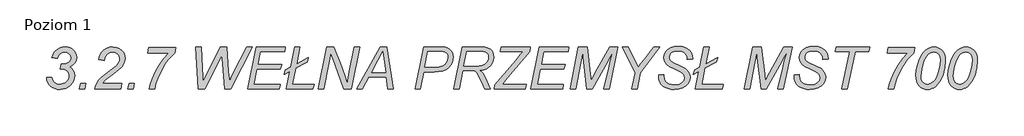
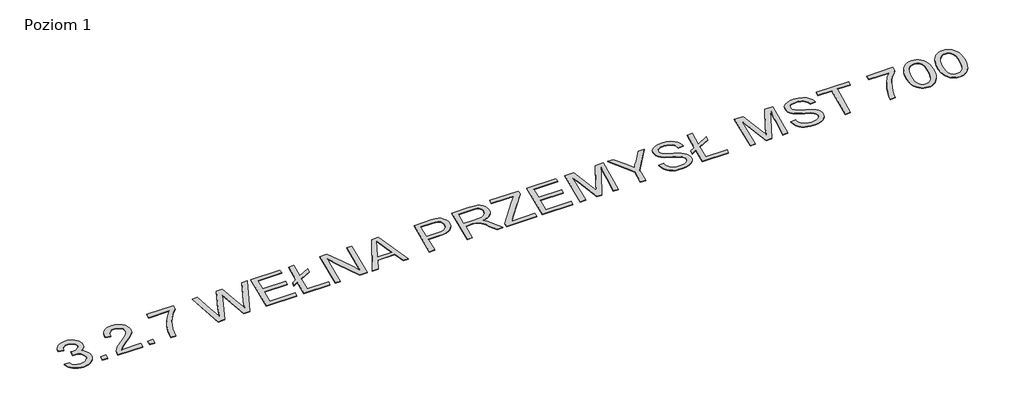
# One storey, part 8 of 8: 1 proxy.
"""IFC4 building model written with IfcOpenShell, lengths in millimetres."""

import ifcopenshell
import ifcopenshell.guid

model = None  # the IFC model being written
_history = None  # IfcOwnerHistory: only IFC2X3 demands one
_inside = {}  # id of a spatial element -> (the spatial element, [elements in it])
_under = {}  # id of a project, library or spatial element -> (it, [spatial elements below it])
_declared = {}  # id of a project -> (the project, [libraries it declares])
_typed = {}  # id of a type object -> (the type object, [elements of that type])
_made_of = {}  # id of a material, layer set ... -> (it, [elements and type objects made of it])


def new_model(schema):
    """Start an empty IFC model of exactly this schema.

    Asked for "IFC4X3", IfcOpenShell would pick the latest addendum, in which some entities
    have other attributes; the version numbers below select the first issue.
    IFC2X3 requires an IfcOwnerHistory on every rooted entity: one is made here for all.
    """
    global model, _history
    if schema == "IFC4X3":
        model = ifcopenshell.file(schema_version=(4, 3, 0, 0))
    else:
        model = ifcopenshell.file(schema=schema)
    _inside.clear()
    _under.clear()
    _declared.clear()
    _typed.clear()
    _made_of.clear()
    _history = None
    if model.schema == "IFC2X3":
        org = make("IfcOrganization", Name="unknown")
        user = make(
            "IfcPersonAndOrganization",
            ThePerson=make("IfcPerson", FamilyName="unknown"),
            TheOrganization=org,
        )
        app = make(
            "IfcApplication",
            ApplicationDeveloper=org,
            Version="unknown",
            ApplicationFullName="unknown",
            ApplicationIdentifier="unknown",
        )
        _history = make(
            "IfcOwnerHistory",
            OwningUser=user,
            OwningApplication=app,
            ChangeAction="ADDED",
            CreationDate=0,
        )
    return model


def make(cls, **values):
    """One entity of the class cls with the attributes given. An attribute that is None is left unset."""
    return model.create_entity(
        cls, **{name: value for name, value in values.items() if value is not None}
    )


def rooted(cls, **values):
    """An entity with a GlobalId (a new one), such as an element, a storey or a relation."""
    return make(cls, GlobalId=ifcopenshell.guid.new(), OwnerHistory=_history, **values)


def si_unit(unit_type, name, prefix=None):
    """IfcSIUnit, for example si_unit("LENGTHUNIT", "METRE", prefix="MILLI")."""
    return make("IfcSIUnit", UnitType=unit_type, Prefix=prefix, Name=name)


def assignment(units):
    """IfcUnitAssignment: the units of a project."""
    return None if units is None else make("IfcUnitAssignment", Units=units)


def point(xyz):
    """IfcCartesianPoint."""
    return None if xyz is None else make("IfcCartesianPoint", Coordinates=xyz)


def direction(xyz):
    """IfcDirection."""
    return None if xyz is None else make("IfcDirection", DirectionRatios=xyz)


def frame(location, z_axis=None, x_axis=None):
    """IfcAxis2Placement3D, a coordinate frame: its origin and axes. An axis left out is left unset."""
    return make(
        "IfcAxis2Placement3D",
        Location=point(location),
        Axis=direction(z_axis),
        RefDirection=direction(x_axis),
    )


def origin():
    """The frame at (0, 0, 0) with its axes left unset."""
    return frame((0.0, 0.0, 0.0))


def origin_with_axes():
    """The frame at (0, 0, 0) with the z axis (0, 0, 1) and the x axis (1, 0, 0) written out."""
    return frame((0.0, 0.0, 0.0), z_axis=(0.0, 0.0, 1.0), x_axis=(1.0, 0.0, 0.0))


def place(relative_to, where):
    """IfcLocalPlacement: puts the frame where relative to a parent placement (None: the world)."""
    return make(
        "IfcLocalPlacement", PlacementRelTo=relative_to, RelativePlacement=where
    )


def context(
    kind, dimensions, precision=None, world=None, true_north=None, identifier=None
):
    """IfcGeometricRepresentationContext, for example the 3D "Model" context."""
    return make(
        "IfcGeometricRepresentationContext",
        ContextIdentifier=identifier,
        ContextType=kind,
        CoordinateSpaceDimension=dimensions,
        Precision=precision,
        WorldCoordinateSystem=world,
        TrueNorth=true_north,
    )


def project(units=None, contexts=None):
    """IfcProject with its units and contexts."""
    return rooted(
        "IfcProject",
        Name="project",
        RepresentationContexts=contexts,
        UnitsInContext=assignment(units),
    )


def spatial(cls, under=None, at=None, **own):
    """A site, building, storey or space (cls), placed at a placement, below another one or the project."""
    s = rooted(cls, ObjectPlacement=at, **own)
    if under is not None:
        _under.setdefault(under.id(), (under, []))[1].append(s)
    return s


def polyline(points):
    """IfcPolyline through the points."""
    return make("IfcPolyline", Points=[point(p) for p in points])


def outline(outer, holes=None, kind="AREA"):
    """IfcArbitraryClosedProfileDef: a profile drawn as a closed curve; with holes, ...WithVoids."""
    if holes is None:
        return make("IfcArbitraryClosedProfileDef", ProfileType=kind, OuterCurve=outer)
    return make(
        "IfcArbitraryProfileDefWithVoids",
        ProfileType=kind,
        OuterCurve=outer,
        InnerCurves=holes,
    )


def extrude(swept, where, along, depth):
    """IfcExtrudedAreaSolid: the profile swept, set in the frame where, extruded along a direction by depth."""
    return make(
        "IfcExtrudedAreaSolid",
        SweptArea=swept,
        Position=where,
        ExtrudedDirection=direction(along),
        Depth=depth,
    )


def shape(context_of_items, identifier, shape_type, items):
    """IfcShapeRepresentation: the items that make up one representation, for example the "Body"."""
    return make(
        "IfcShapeRepresentation",
        ContextOfItems=context_of_items,
        RepresentationIdentifier=identifier,
        RepresentationType=shape_type,
        Items=items,
    )


def made_of(thing, what):
    """Note that an element or type object is made of a material, layer set ...; save() writes the relation."""
    if what is not None:
        _made_of.setdefault(what.id(), (what, []))[1].append(thing)
    return thing


def element(
    cls,
    number,
    at=None,
    inside=None,
    cuts=None,
    type_object=None,
    material=None,
    context=None,
    identifier="Body",
    shape_type=None,
    held_by="IfcProductDefinitionShape",
    body=None,
    shapes=None,
    **own,
):
    """One element of the class cls, such as IfcWall. Its Tag is "e" and its number.

    at: its placement. inside: the storey or other place that contains it. cuts: it is an
    opening in that element (IfcRelVoidsElement). A single representation is given by context,
    identifier, shape_type and body (its items); several are given by shapes. held_by: the class
    of the entity that holds the representations. save() writes the other relations.
    """
    e = rooted(cls, Tag="e%d" % number, ObjectPlacement=at, **own)
    if body is not None:
        shapes = [shape(context, identifier, shape_type, body)]
    if shapes is not None:
        e.Representation = make(held_by, Representations=shapes)
    if inside is not None:
        _inside.setdefault(inside.id(), (inside, []))[1].append(e)
    if cuts is not None:
        rooted(
            "IfcRelVoidsElement", RelatingBuildingElement=cuts, RelatedOpeningElement=e
        )
    if type_object is not None:
        _typed.setdefault(type_object.id(), (type_object, []))[1].append(e)
    return made_of(e, material)


def aggregate(whole, parts):
    """IfcRelAggregates: a whole, such as a stair, and the parts it consists of."""
    return rooted("IfcRelAggregates", RelatingObject=whole, RelatedObjects=parts)


def save(model, path):
    """Write the relations noted so far, then the file.

    IfcRelAggregates (storeys below a building ...), IfcRelContainedInSpatialStructure (elements
    in a storey), IfcRelDefinesByType, IfcRelAssociatesMaterial and IfcRelDeclares: one each for
    every whole, place, type object, material and project.
    """
    for whole, parts in _under.values():
        aggregate(whole, parts)
    for where, things in _inside.values():
        rooted(
            "IfcRelContainedInSpatialStructure",
            RelatedElements=things,
            RelatingStructure=where,
        )
    for kind, things in _typed.values():
        rooted("IfcRelDefinesByType", RelatedObjects=things, RelatingType=kind)
    for what, things in _made_of.values():
        rooted("IfcRelAssociatesMaterial", RelatedObjects=things, RelatingMaterial=what)
    for by, libraries in _declared.values():
        rooted("IfcRelDeclares", RelatingContext=by, RelatedDefinitions=libraries)
    model.write(path)


model = new_model("IFC4")

# Units and contexts
model_context = context("Model", 3, world=origin())
ifc_project = project(units=[si_unit("LENGTHUNIT", "METRE", prefix="MILLI")], contexts=[model_context])

# Site, building, storey
site = spatial("IfcSite", under=ifc_project)
building = spatial("IfcBuilding", under=site)
storey = spatial("IfcBuildingStorey", under=building, Name="Poziom 1", Elevation=0.0)

# Proxy
placement = place(None, origin())
element("IfcBuildingElementProxy", 1, Name="400 mm Arial", ObjectType="400 mm Arial", at=placement, inside=storey, context=model_context, shape_type="SweptSolid", body=[
    extrude(outline(polyline([(68935.3811978, 3434.5109693), (68984.3508948, 3434.5109693), (68993.2457811, 3406.3557846), (69008.8357432, 3387.501973), (69030.7382054, 3376.8496293), (69058.5705917, 3373.298848), (69093.1458758, 3379.2765943), (69108.5325946, 3386.748777), (69122.6520311, 3397.2098329), (69134.4521021, 3409.6017008), (69142.8807243, 3422.8663196), (69147.9378976, 3437.0036894), (69149.623622, 3452.0138102), (69144.7696921, 3476.6301691), (69130.2079023, 3496.536064), (69107.4685557, 3509.6990611), (69078.0819554, 3514.0867268), (69062.6832811, 3514.0867268), (69070.9086599, 3563.9172193), (69084.2031675, 3563.0564238), (69120.440265, 3567.2169352), (69146.7064819, 3579.6984693), (69162.6670643, 3598.2294825), (69167.9872584, 3620.5384314), (69163.4680823, 3641.0540564), (69149.9105539, 3658.0308556), (69129.8014156, 3669.4363954), (69105.6274099, 3673.238242), (69081.3577603, 3669.3527069), (69059.6226751, 3657.6961018), (69042.8132527, 3638.9379342), (69033.3205917, 3613.7477117), (68984.3508948, 3621.6861587), (68991.5929343, 3644.3328502), (69001.5548484, 3664.2596672), (69014.2366369, 3681.4666096), (69029.6383001, 3695.9536776), (69047.1680408, 3707.4399169), (69066.2340624, 3715.6443736), (69086.8363647, 3720.5670476), (69108.9749478, 3722.207939), (69131.9324821, 3720.4564593), (69152.6005396, 3715.2020204), (69170.9791204, 3706.4446222), (69187.0682243, 3694.1842647), (69200.1445441, 3679.3714096), (69209.4847726, 3662.9565185), (69215.0889097, 3644.9395914), (69216.9569554, 3625.3206283), (69212.9996874, 3597.3806426), (69201.1278834, 3573.2425033), (69181.1980775, 3552.9062107), (69153.0668039, 3536.3717647), (69173.1042092, 3520.961135), (69187.3073342, 3502.6572761), (69195.7718228, 3481.484099), (69198.593319, 3457.4655147), (69196.0617435, 3431.3905857), (69188.4670169, 3407.1089806), (69175.8091393, 3384.6206994), (69158.0881107, 3363.925742), (69136.8461895, 3346.6022335), (69113.6256343, 3334.2282988), (69088.4264452, 3326.803938), (69061.248622, 3324.3291511), (69035.2095595, 3326.2061634), (69011.8007054, 3331.8372003), (68991.0220595, 3341.2222619), (68972.873622, 3354.361348), (68957.9053455, 3370.6327732), (68946.6671826, 3389.4148518), (68939.1591334, 3410.7075838), (68935.3811978, 3434.5109693)])), origin_with_axes(), (0.0, 0.0, 1.0), 5.0),
    extrude(outline(polyline([(69242.2069554, 3330.4503632), (69253.6842281, 3379.4200602), (69302.6539251, 3379.4200602), (69292.1330917, 3330.4503632), (69242.2069554, 3330.4503632)])), origin_with_axes(), (0.0, 0.0, 1.0), 5.0),
    extrude(outline(polyline([(69388.3508948, 3330.4503632), (69397.4729355, 3362.7062818), (69409.5360273, 3389.2713859), (69425.2933664, 3412.3813528), (69445.4981485, 3434.2718594), (69531.8168039, 3502.8963859), (69584.8991902, 3545.1710071), (69602.569408, 3564.7062818), (69614.6444554, 3583.9068026), (69619.3788304, 3597.392598), (69620.9569554, 3612.0261208), (69616.067159, 3635.6382183), (69601.3977698, 3655.4006473), (69579.6029071, 3668.7788433), (69553.3366902, 3673.238242), (69526.9748294, 3668.7190658), (69504.1278834, 3655.1615374), (69486.0631343, 3631.6092174), (69474.0478645, 3597.1056662), (69425.0781675, 3603.6094541), (69430.3236398, 3629.6963386), (69438.9824052, 3652.8660829), (69451.0544637, 3673.1186871), (69466.5398152, 3690.4541511), (69484.7868855, 3704.3464333), (69505.1441003, 3714.269492), (69527.6114594, 3720.2233272), (69552.1889629, 3722.207939), (69584.8155018, 3718.6810687), (69614.2140576, 3708.1004579), (69638.5434847, 3691.1475696), (69655.9626372, 3668.503867), (69666.4356485, 3642.5963149), (69669.9266523, 3615.8518783), (69668.1572395, 3596.238893), (69662.8490008, 3576.996528), (69654.0019364, 3558.1247832), (69641.6160463, 3539.6236587), (69607.327694, 3508.0611587), (69539.2770311, 3455.8395677), (69484.9990955, 3411.8433556), (69458.1709705, 3379.4200602), (69639.3205917, 3379.4200602), (69629.6605539, 3330.4503632), (69388.3508948, 3330.4503632)])), origin_with_axes(), (0.0, 0.0, 1.0), 5.0),
    extrude(outline(polyline([(69695.1766523, 3330.4503632), (69706.6539251, 3379.4200602), (69755.623622, 3379.4200602), (69745.1027887, 3330.4503632), (69695.1766523, 3330.4503632)])), origin_with_axes(), (0.0, 0.0, 1.0), 5.0),
    extrude(outline(polyline([(69896.4115008, 3330.4503632), (69906.4541145, 3373.322759), (69923.7656675, 3424.0857799), (69952.6142707, 3489.8648992), (69989.233944, 3555.2136208), (70032.0226514, 3615.7562344), (70079.3783569, 3667.1170299), (69883.3082811, 3667.1170299), (69892.6813872, 3716.0867268), (70144.1293039, 3716.0867268), (70135.1387735, 3667.1170299), (70103.8333166, 3637.6347855), (70074.5722489, 3604.1833177), (70047.3555704, 3566.7626265), (70022.1832811, 3525.3727117), (69996.3295288, 3475.6019967), (69974.9112641, 3426.5247003), (69957.9284871, 3378.1408225), (69945.3811978, 3330.4503632), (69896.4115008, 3330.4503632)])), origin_with_axes(), (0.0, 0.0, 1.0), 5.0),
    extrude(outline(polyline([(70355.5024099, 3330.4503632), (70331.0175614, 3722.207939), (70379.9872584, 3722.207939), (70391.1775993, 3527.0943026), (70395.4815766, 3452.205098), (70396.8205917, 3428.1984693), (70401.4115008, 3397.7836965), (70446.842372, 3497.3490374), (70561.6150993, 3722.207939), (70618.7145311, 3722.207939), (70636.0260842, 3492.5668405), (70646.2599857, 3397.7836965), (70661.7543039, 3435.3717647), (70692.3603645, 3496.392598), (70805.9853645, 3722.207939), (70860.5024099, 3722.207939), (70656.5895311, 3330.4503632), (70600.3508948, 3330.4503632), (70581.7959705, 3566.7865374), (70572.8054402, 3642.6321814), (70546.8859326, 3585.6283935), (70416.4275993, 3330.4503632), (70355.5024099, 3330.4503632)])), origin_with_axes(), (0.0, 0.0, 1.0), 5.0),
    extrude(outline(polyline([(70814.593319, 3330.4503632), (70894.1690766, 3722.207939), (71169.623622, 3722.207939), (71163.406766, 3679.3594541), (70935.2003266, 3679.3594541), (70910.3329023, 3556.9352117), (71132.8963493, 3556.9352117), (71120.6539251, 3514.0867268), (70901.6293039, 3514.0867268), (70873.031766, 3373.298848), (71118.5497584, 3373.298848), (71109.3679402, 3330.4503632), (70814.593319, 3330.4503632)])), origin_with_axes(), (0.0, 0.0, 1.0), 5.0),
    extrude(outline(polyline([(71208.7419932, 3493.0450602), (71157.3811978, 3465.1170299), (71169.623622, 3507.9655147), (71217.063016, 3533.7893783), (71255.3205917, 3722.207939), (71305.0554402, 3722.207939), (71272.9190766, 3564.0128632), (71383.8660463, 3624.268545), (71371.623622, 3581.4200602), (71264.6936978, 3523.364189), (71234.1832811, 3373.298848), (71438.9569554, 3373.298848), (71426.7145311, 3330.4503632), (71175.7448342, 3330.4503632), (71208.7419932, 3493.0450602)])), origin_with_axes(), (0.0, 0.0, 1.0), 5.0),
    extrude(outline(polyline([(71475.6842281, 3330.4503632), (71555.2599857, 3722.207939), (71622.593319, 3722.207939), (71681.8925614, 3570.612295), (71724.9323342, 3453.831045), (71746.0696448, 3379.4200602), (71767.6851751, 3490.5583177), (71812.7334705, 3722.207939), (71862.3726751, 3722.207939), (71786.2400993, 3330.4503632), (71713.9332811, 3330.4503632), (71632.9228645, 3555.5005526), (71593.4219175, 3665.0128632), (71573.8149099, 3568.3168405), (71525.4190766, 3330.4503632), (71475.6842281, 3330.4503632)])), origin_with_axes(), (0.0, 0.0, 1.0), 5.0),
    extrude(outline(polyline([(71834.6359326, 3330.4503632), (72053.8518417, 3722.207939), (72115.8291145, 3722.207939), (72177.5194554, 3330.4503632), (72128.0715387, 3330.4503632), (72112.3859326, 3440.6321814), (71949.313016, 3440.6321814), (71889.5355539, 3330.4503632), (71834.6359326, 3330.4503632)]), holes=[polyline([(71974.6586599, 3483.4806662), (72106.3603645, 3483.4806662), (72092.5876372, 3581.4200602), (72078.623622, 3679.3594541), (72035.4882054, 3599.7836965), (71974.6586599, 3483.4806662)])]), origin_with_axes(), (0.0, 0.0, 1.0), 5.0),
    extrude(outline(polyline([(72381.623622, 3330.4503632), (72460.8168039, 3722.207939), (72624.0810084, 3722.207939), (72661.1669459, 3719.7690185), (72687.6842281, 3712.4522571), (72707.0760368, 3699.2294825), (72722.7855539, 3679.0725223), (72733.1868323, 3654.0138102), (72736.6539251, 3626.0857799), (72734.1791381, 3601.5889759), (72726.7547773, 3576.6856852), (72715.5524809, 3553.7789617), (72701.7438872, 3535.2718594), (72686.5365008, 3520.9730905), (72671.1378266, 3510.691367), (72637.9493796, 3498.4011208), (72600.0504686, 3491.801689), (72561.7211599, 3489.6018783), (72463.5904781, 3489.6018783), (72431.4541145, 3330.4503632), (72381.623622, 3330.4503632)]), holes=[polyline([(72472.2940766, 3532.4503632), (72560.2865008, 3532.4503632), (72604.6533332, 3535.1762155), (72635.4148152, 3543.3537723), (72656.9227461, 3557.1145441), (72673.5289251, 3576.5900412), (72684.1454023, 3599.6043641), (72687.6842281, 3623.9816132), (72685.7713493, 3641.5322761), (72680.0327129, 3655.5441132), (72670.8030728, 3666.172546), (72658.4171826, 3673.5729958), (72638.0450235, 3677.9128395), (72604.8565766, 3679.3594541), (72502.0393417, 3679.3594541), (72472.2940766, 3532.4503632)])]), origin_with_axes(), (0.0, 0.0, 1.0), 5.0),
    extrude(outline(polyline([(72742.7751372, 3330.4503632), (72822.3508948, 3722.207939), (72987.8149099, 3722.207939), (73030.8666381, 3720.1276833), (73062.0824289, 3713.8869162), (73084.6543985, 3701.9075128), (73101.7746637, 3682.611348), (73112.5704734, 3656.6679295), (73116.1690766, 3624.7467647), (73114.2322868, 3601.349866), (73108.4219175, 3580.033223), (73098.7379686, 3560.7968357), (73085.1804402, 3543.6407041), (73067.3010013, 3528.9414262), (73044.6513209, 3517.0755999), (73017.231399, 3508.0432254), (72985.0412357, 3501.8443026), (73003.7635368, 3487.5216227), (73017.2732432, 3473.4380526), (73036.4259421, 3438.2171719), (73051.4181296, 3401.800742), (73085.467372, 3330.4503632), (73032.0024099, 3330.4503632), (72997.7618796, 3402.1833177), (72982.6262262, 3438.5758367), (72965.529872, 3469.707939), (72951.9364771, 3486.0989191), (72937.7453076, 3495.6752685), (72918.7480302, 3500.3020441), (72890.7363114, 3501.8443026), (72827.3243796, 3501.8443026), (72792.5099857, 3330.4503632), (72742.7751372, 3330.4503632)]), holes=[polyline([(72836.0279781, 3544.6927874), (72911.1084705, 3544.6927874), (72978.9200235, 3544.6927874), (73005.879659, 3549.6662723), (73027.4593228, 3558.4655147), (73044.2328787, 3571.0307373), (73056.7741902, 3587.3021624), (73064.5930823, 3606.108152), (73067.1993796, 3626.2770677), (73065.2147679, 3642.7397808), (73059.2609326, 3656.9309503), (73050.0791145, 3667.8941369), (73038.4105539, 3674.6729011), (73020.9794459, 3678.1878158), (72994.5099857, 3679.3594541), (72863.3821448, 3679.3594541), (72836.0279781, 3544.6927874)])]), origin_with_axes(), (0.0, 0.0, 1.0), 5.0),
    extrude(outline(polyline([(73122.2902887, 3330.4503632), (73128.4115008, 3367.1776359), (73325.2467281, 3601.5052874), (73366.1823342, 3649.9967647), (73390.7628266, 3679.3594541), (73355.6615008, 3679.3594541), (73342.6539251, 3679.3594541), (73326.968319, 3679.3594541), (73311.5696448, 3679.3594541), (73178.3376372, 3679.3594541), (73187.6150993, 3722.207939), (73458.9569554, 3722.207939), (73453.8878266, 3681.176689), (73243.375516, 3430.6852117), (73195.1709705, 3373.298848), (73210.0914251, 3373.298848), (73419.7429402, 3373.298848), (73410.4654781, 3330.4503632), (73122.2902887, 3330.4503632)])), origin_with_axes(), (0.0, 0.0, 1.0), 5.0),
    extrude(outline(polyline([(73465.0781675, 3330.4503632), (73544.6539251, 3722.207939), (73820.1084705, 3722.207939), (73813.8916145, 3679.3594541), (73585.6851751, 3679.3594541), (73560.8177508, 3556.9352117), (73783.3811978, 3556.9352117), (73771.1387735, 3514.0867268), (73552.1141523, 3514.0867268), (73523.5166145, 3373.298848), (73769.0346069, 3373.298848), (73759.8527887, 3330.4503632), (73465.0781675, 3330.4503632)])), origin_with_axes(), (0.0, 0.0, 1.0), 5.0),
    extrude(outline(polyline([(73831.6813872, 3330.4503632), (73908.1008948, 3722.207939), (73991.5980539, 3722.207939), (74021.2476751, 3468.9427874), (74028.0383948, 3404.7657041), (74067.9219175, 3482.8111587), (74200.3887735, 3722.207939), (74277.8603645, 3722.207939), (74194.7457811, 3330.4503632), (74144.5327129, 3330.4503632), (74190.5374478, 3518.6776359), (74205.7209232, 3590.6975223), (74231.3774099, 3673.238242), (74204.0710652, 3630.7484219), (74180.686122, 3587.2543405), (74038.4635842, 3330.4503632), (73988.250516, 3330.4503632), (73958.8878266, 3581.611348), (73948.1757054, 3673.238242), (73929.812069, 3578.8376738), (73881.3205917, 3330.4503632), (73831.6813872, 3330.4503632)])), origin_with_axes(), (0.0, 0.0, 1.0), 5.0),
    extrude(outline(polyline([(74407.7448342, 3330.4503632), (74438.1596069, 3480.4200602), (74319.8480539, 3722.207939), (74373.4086599, 3722.207939), (74430.7950235, 3609.1568026), (74467.5222963, 3529.9636208), (74490.6442186, 3565.973564), (74523.4740008, 3604.7571814), (74611.3707811, 3722.207939), (74670.5743796, 3722.207939), (74487.0336599, 3476.4986587), (74457.4796826, 3330.4503632), (74407.7448342, 3330.4503632)])), origin_with_axes(), (0.0, 0.0, 1.0), 5.0),
    extrude(outline(polyline([(74658.7145311, 3458.9958177), (74707.6842281, 3465.1170299), (74707.1103645, 3450.9617268), (74709.6927508, 3428.5093121), (74717.4399099, 3408.017598), (74731.1409042, 3390.7180005), (74751.5847963, 3377.8419352), (74777.6238588, 3369.8437107), (74808.1103645, 3367.1776359), (74849.15357, 3372.3424087), (74865.523628, 3378.7983746), (74879.1259895, 3387.8367268), (74897.4537593, 3409.9543878), (74903.563016, 3434.989189), (74900.358944, 3452.6594068), (74890.7467281, 3468.7514996), (74866.4531675, 3486.3499844), (74819.5876372, 3509.3045299), (74757.9929402, 3539.9105905), (74735.5644364, 3557.987295), (74719.9266523, 3577.5943026), (74710.7448342, 3599.4250318), (74707.6842281, 3624.1729011), (74711.6654071, 3652.770439), (74723.608944, 3678.4986587), (74743.2159516, 3699.9109456), (74770.1875425, 3715.5606852), (74802.8140813, 3725.1370346), (74839.3859326, 3728.3291511), (74881.7801088, 3724.2284172), (74916.9531675, 3711.9262155), (74944.1877792, 3692.7854721), (74962.7666145, 3668.1691132), (74973.4548247, 3641.4366321), (74977.0175614, 3615.9475223), (74977.0175614, 3607.7221435), (74928.0478645, 3603.6094541), (74925.2741902, 3630.676689), (74918.7106249, 3646.4459835), (74909.3494743, 3659.5133367), (74896.5810084, 3670.081992), (74879.795497, 3678.3551927), (74859.8896021, 3683.6992979), (74837.7599857, 3685.4806662), (74801.3674667, 3680.6506473), (74786.5785226, 3674.6131236), (74774.061122, 3666.1605905), (74761.0057243, 3649.0164143), (74756.6539251, 3627.0422193), (74758.4592044, 3613.3651359), (74763.8750425, 3601.2183556), (74774.0013446, 3589.9323708), (74789.938016, 3578.8376738), (74853.5412357, 3548.1359693), (74909.779872, 3518.8689238), (74927.9761315, 3503.2311397), (74941.438016, 3484.6283935), (74949.7590387, 3463.1563291), (74952.5327129, 3438.9105905), (74947.8222489, 3408.4599513), (74933.6908569, 3380.4243215), (74911.2503976, 3356.6448471), (74881.6127319, 3338.9626738), (74845.973409, 3327.9875318), (74805.5279781, 3324.3291511), (74774.6439523, 3326.1583414), (74746.7428218, 3331.6459124), (74721.8245868, 3340.7918641), (74699.889247, 3353.5961965), (74681.9829083, 3371.1588149), (74669.151676, 3394.5796246), (74661.3955503, 3423.8586255), (74658.7145311, 3458.9958177)])), origin_with_axes(), (0.0, 0.0, 1.0), 5.0),
    extrude(outline(polyline([(75034.499569, 3493.0450602), (74983.1387735, 3465.1170299), (74995.3811978, 3507.9655147), (75042.8205917, 3533.7893783), (75081.0781675, 3722.207939), (75130.813016, 3722.207939), (75098.6766523, 3564.0128632), (75209.623622, 3624.268545), (75197.3811978, 3581.4200602), (75090.4512735, 3523.364189), (75059.9408569, 3373.298848), (75264.7145311, 3373.298848), (75252.4721069, 3330.4503632), (75001.5024099, 3330.4503632), (75034.499569, 3493.0450602)])), origin_with_axes(), (0.0, 0.0, 1.0), 5.0),
    extrude(outline(polyline([(75459.9238114, 3330.4503632), (75536.343319, 3722.207939), (75619.8404781, 3722.207939), (75649.4900993, 3468.9427874), (75656.280819, 3404.7657041), (75696.1643417, 3482.8111587), (75828.6311978, 3722.207939), (75906.1027887, 3722.207939), (75822.9882054, 3330.4503632), (75772.7751372, 3330.4503632), (75818.779872, 3518.6776359), (75833.9633474, 3590.6975223), (75859.6198342, 3673.238242), (75832.3134895, 3630.7484219), (75808.9285463, 3587.2543405), (75666.7060084, 3330.4503632), (75616.4929402, 3330.4503632), (75587.1302508, 3581.611348), (75576.4181296, 3673.238242), (75558.0544932, 3578.8376738), (75509.563016, 3330.4503632), (75459.9238114, 3330.4503632)])), origin_with_axes(), (0.0, 0.0, 1.0), 5.0),
    extrude(outline(polyline([(75925.8054402, 3458.9958177), (75974.7751372, 3465.1170299), (75974.2012735, 3450.9617268), (75976.7836599, 3428.5093121), (75984.530819, 3408.017598), (75998.2318133, 3390.7180005), (76018.6757054, 3377.8419352), (76044.7147679, 3369.8437107), (76075.2012735, 3367.1776359), (76116.244479, 3372.3424087), (76132.614537, 3378.7983746), (76146.2168985, 3387.8367268), (76164.5446684, 3409.9543878), (76170.6539251, 3434.989189), (76167.4498531, 3452.6594068), (76157.8376372, 3468.7514996), (76133.5440766, 3486.3499844), (76086.6785463, 3509.3045299), (76025.0838493, 3539.9105905), (76002.6553455, 3557.987295), (75987.0175614, 3577.5943026), (75977.8357432, 3599.4250318), (75974.7751372, 3624.1729011), (75978.7563162, 3652.770439), (75990.6998531, 3678.4986587), (76010.3068607, 3699.9109456), (76037.2784516, 3715.5606852), (76069.9049904, 3725.1370346), (76106.4768417, 3728.3291511), (76148.8710179, 3724.2284172), (76184.0440766, 3711.9262155), (76211.2786883, 3692.7854721), (76229.8575235, 3668.1691132), (76240.5457338, 3641.4366321), (76244.1084705, 3615.9475223), (76244.1084705, 3607.7221435), (76195.1387735, 3603.6094541), (76192.3650993, 3630.676689), (76185.801534, 3646.4459835), (76176.4403834, 3659.5133367), (76163.6719175, 3670.081992), (76146.8864061, 3678.3551927), (76126.9805112, 3683.6992979), (76104.8508948, 3685.4806662), (76068.4583758, 3680.6506473), (76053.6694317, 3674.6131236), (76041.1520311, 3666.1605905), (76028.0966334, 3649.0164143), (76023.7448342, 3627.0422193), (76025.5501135, 3613.3651359), (76030.9659516, 3601.2183556), (76041.0922537, 3589.9323708), (76057.0289251, 3578.8376738), (76120.6321448, 3548.1359693), (76176.8707811, 3518.8689238), (76195.0670406, 3503.2311397), (76208.5289251, 3484.6283935), (76216.8499478, 3463.1563291), (76219.623622, 3438.9105905), (76214.913158, 3408.4599513), (76200.781766, 3380.4243215), (76178.3413067, 3356.6448471), (76148.703641, 3338.9626738), (76113.0643181, 3327.9875318), (76072.6188872, 3324.3291511), (76041.7348614, 3326.1583414), (76013.8337309, 3331.6459124), (75988.9154959, 3340.7918641), (75966.9801561, 3353.5961965), (75949.0738173, 3371.1588149), (75936.2425851, 3394.5796246), (75928.4864594, 3423.8586255), (75925.8054402, 3458.9958177)])), origin_with_axes(), (0.0, 0.0, 1.0), 5.0),
    extrude(outline(polyline([(76372.6539251, 3330.4503632), (76446.7779781, 3679.3594541), (76311.4418039, 3679.3594541), (76320.719266, 3722.207939), (76632.8054402, 3722.207939), (76623.5279781, 3679.3594541), (76496.6084705, 3679.3594541), (76422.4844175, 3330.4503632), (76372.6539251, 3330.4503632)])), origin_with_axes(), (0.0, 0.0, 1.0), 5.0),
    extrude(outline(polyline([(76807.2599857, 3330.4503632), (76817.3025993, 3373.322759), (76834.6141523, 3424.0857799), (76863.4627556, 3489.8648992), (76900.0824289, 3555.2136208), (76942.8711362, 3615.7562344), (76990.2268417, 3667.1170299), (76794.156766, 3667.1170299), (76803.529872, 3716.0867268), (77054.9777887, 3716.0867268), (77045.9872584, 3667.1170299), (77014.6818015, 3637.6347855), (76985.4207338, 3604.1833177), (76958.2040553, 3566.7626265), (76933.031766, 3525.3727117), (76907.1780136, 3475.6019967), (76885.7597489, 3426.5247003), (76868.7769719, 3378.1408225), (76856.2296826, 3330.4503632), (76807.2599857, 3330.4503632)])), origin_with_axes(), (0.0, 0.0, 1.0), 5.0),
    extrude(outline(polyline([(77064.3508948, 3458.8045299), (77068.1288304, 3508.6469778), (77079.4626372, 3559.2784882), (77095.4112641, 3605.1875791), (77113.0336599, 3640.8627685), (77131.8396495, 3668.0973802), (77151.3390576, 3688.6847382), (77171.0177982, 3703.6649702), (77190.3617849, 3714.0782041), (77210.6024336, 3720.1755052), (77232.9711599, 3722.207939), (77254.8437333, 3720.1306721), (77274.8392944, 3713.8988717), (77292.9578432, 3703.5125377), (77309.1993796, 3688.97167), (77322.5895311, 3670.5094008), (77332.1539251, 3648.3588623), (77337.8925614, 3622.5200542), (77339.8054402, 3592.9929768), (77334.4972016, 3528.7680715), (77318.5724857, 3465.2126738), (77304.8595359, 3430.0635261), (77288.6837546, 3399.6009314), (77270.0451419, 3373.8248897), (77248.9436978, 3352.7354011), (77231.225658, 3340.3076667), (77212.312069, 3331.4307136), (77192.2029307, 3326.1045417), (77170.8982432, 3324.3291511), (77149.3454793, 3326.4811397), (77129.544195, 3332.9371056), (77111.4943903, 3343.6970488), (77095.1960652, 3358.7609693), (77081.7013031, 3377.9256236), (77072.0621874, 3400.9877685), (77066.2787179, 3427.9474039), (77064.3508948, 3458.8045299)]), holes=[polyline([(77113.3205917, 3451.7268783), (77116.3094648, 3421.9098802), (77125.2760842, 3399.4096435), (77134.3921471, 3387.9861705), (77145.4808664, 3379.8265469), (77158.5422418, 3374.9307728), (77173.5762735, 3373.298848), (77200.2609326, 3379.2048613), (77224.4588493, 3396.9229011), (77239.9770785, 3415.4569032), (77253.4389629, 3437.8704626), (77264.8445027, 3464.1635793), (77274.1936978, 3494.3362533), (77286.6752319, 3552.6671009), (77290.8357432, 3599.2098329), (77286.8067423, 3633.031921), (77274.7197395, 3655.878867), (77256.0333048, 3668.8983982), (77232.2060084, 3673.238242), (77213.6271732, 3670.9427874), (77196.3395311, 3664.0564238), (77180.0561504, 3651.5748897), (77164.4900993, 3632.4939238), (77144.2853171, 3593.1842647), (77126.9020311, 3538.1889996), (77116.7159516, 3489.7453443), (77113.3205917, 3451.7268783)])]), origin_with_axes(), (0.0, 0.0, 1.0), 5.0),
    extrude(outline(polyline([(77364.2902887, 3458.8045299), (77368.0682243, 3508.6469778), (77379.4020311, 3559.2784882), (77395.350658, 3605.1875791), (77412.9730539, 3640.8627685), (77431.7790434, 3668.0973802), (77451.2784516, 3688.6847382), (77470.9571921, 3703.6649702), (77490.3011789, 3714.0782041), (77510.5418275, 3720.1755052), (77532.9105539, 3722.207939), (77554.7831272, 3720.1306721), (77574.7786883, 3713.8988717), (77592.8972371, 3703.5125377), (77609.1387735, 3688.97167), (77622.5289251, 3670.5094008), (77632.093319, 3648.3588623), (77637.8319554, 3622.5200542), (77639.7448342, 3592.9929768), (77634.4365955, 3528.7680715), (77618.5118796, 3465.2126738), (77604.7989298, 3430.0635261), (77588.6231485, 3399.6009314), (77569.9845359, 3373.8248897), (77548.8830917, 3352.7354011), (77531.165052, 3340.3076667), (77512.2514629, 3331.4307136), (77492.1423247, 3326.1045417), (77470.8376372, 3324.3291511), (77449.2848732, 3326.4811397), (77429.4835889, 3332.9371056), (77411.4337842, 3343.6970488), (77395.1354592, 3358.7609693), (77381.6406971, 3377.9256236), (77372.0015813, 3400.9877685), (77366.2181119, 3427.9474039), (77364.2902887, 3458.8045299)]), holes=[polyline([(77413.2599857, 3451.7268783), (77416.2488588, 3421.9098802), (77425.2154781, 3399.4096435), (77434.3315411, 3387.9861705), (77445.4202603, 3379.8265469), (77458.4816358, 3374.9307728), (77473.5156675, 3373.298848), (77500.2003266, 3379.2048613), (77524.3982432, 3396.9229011), (77539.9164724, 3415.4569032), (77553.3783569, 3437.8704626), (77564.7838967, 3464.1635793), (77574.1330917, 3494.3362533), (77586.6146258, 3552.6671009), (77590.7751372, 3599.2098329), (77586.7461362, 3633.031921), (77574.6591334, 3655.878867), (77555.9726987, 3668.8983982), (77532.1454023, 3673.238242), (77513.5665671, 3670.9427874), (77496.2789251, 3664.0564238), (77479.9955444, 3651.5748897), (77464.4294932, 3632.4939238), (77444.224711, 3593.1842647), (77426.8414251, 3538.1889996), (77416.6553455, 3489.7453443), (77413.2599857, 3451.7268783)])]), origin_with_axes(), (0.0, 0.0, 1.0), 5.0),
])

save(model, "model.ifc")
